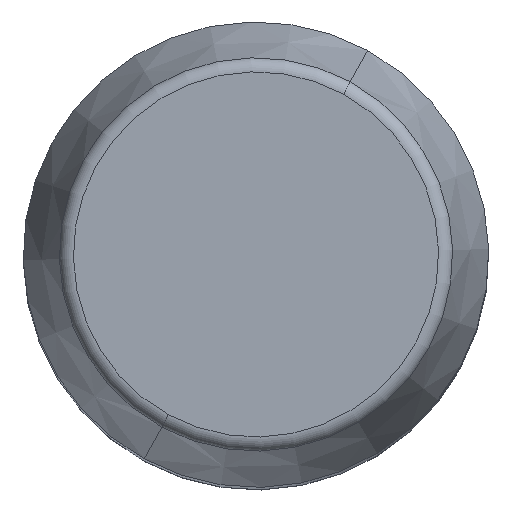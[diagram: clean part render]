
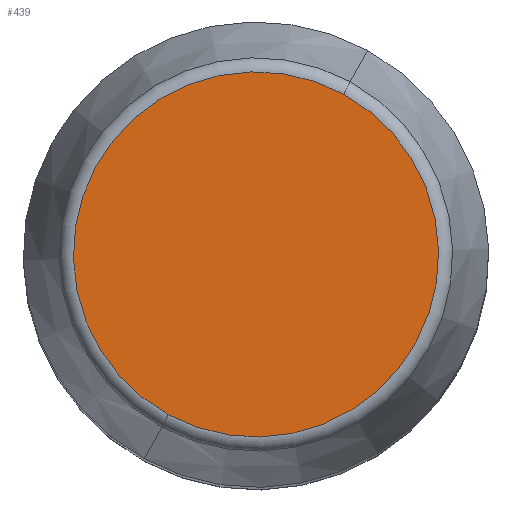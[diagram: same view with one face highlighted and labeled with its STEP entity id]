
A CAD part, top view. The second image highlights one B-rep face of the part: STEP entity #439.
In plain terms, the highlighted planar face has unit normal (0, 0, 1).
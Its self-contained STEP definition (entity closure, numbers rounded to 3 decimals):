
#391=CARTESIAN_POINT('Vertex',(-6.018,-11.016,125.)) ;
#394=CARTESIAN_POINT('Axis2P3D Location',(0.,0.,125.)) ;
#398=CARTESIAN_POINT('Vertex',(6.018,11.016,125.)) ;
#418=CARTESIAN_POINT('Axis2P3D Location',(0.,0.,125.)) ;
#430=CARTESIAN_POINT('Axis2P3D Location',(0.,12.553,125.)) ;
#395=DIRECTION('Axis2P3D Direction',(0.,0.,-1.)) ;
#419=DIRECTION('Axis2P3D Direction',(0.,0.,-1.)) ;
#431=DIRECTION('Axis2P3D Direction',(0.,0.,-1.)) ;
#432=DIRECTION('Axis2P3D XDirection',(1.,0.,0.)) ;
#396=AXIS2_PLACEMENT_3D('Circle Axis2P3D',#394,#395,$) ;
#420=AXIS2_PLACEMENT_3D('Circle Axis2P3D',#418,#419,$) ;
#433=AXIS2_PLACEMENT_3D('Plane Axis2P3D',#430,#431,#432) ;
#436=ORIENTED_EDGE('',*,*,#422,.F.) ;
#437=ORIENTED_EDGE('',*,*,#400,.F.) ;
#439=ADVANCED_FACE('PartBody',(#438),#434,.F.) ;
#397=CIRCLE('generated circle',#396,12.553) ;
#421=CIRCLE('generated circle',#420,12.553) ;
#400=EDGE_CURVE('',#392,#399,#397,.T.) ;
#422=EDGE_CURVE('',#399,#392,#421,.T.) ;
#435=EDGE_LOOP('',(#436,#437)) ;
#438=FACE_OUTER_BOUND('',#435,.T.) ;
#434=PLANE('Plane',#433) ;
#392=VERTEX_POINT('',#391) ;
#399=VERTEX_POINT('',#398) ;
